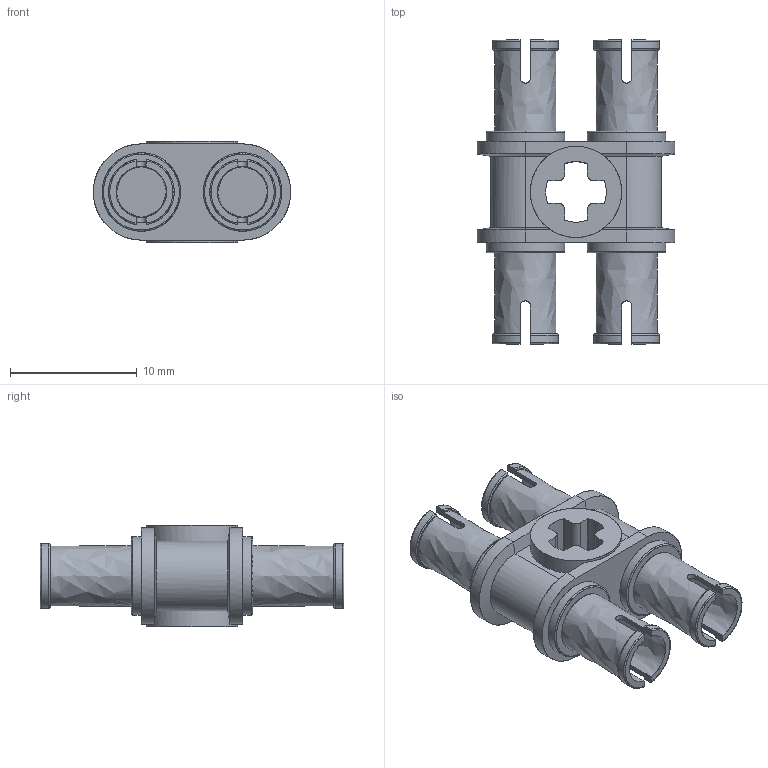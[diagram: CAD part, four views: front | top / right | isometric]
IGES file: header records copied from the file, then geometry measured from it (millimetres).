
Start section: C
Global section: file name: Black_4119589_AVV.iges; native system: By Siemens PLM Incorporated; preprocessor: XPlus GENERIC/IGES 26.1.183; author: Author; organization: Title; date: 20250721.234457; units: millimetre
Bounding box: 15.59 x 24 x 8 mm (x, y, z)
Surface area: 1587.2 mm2 (no closed solid volume)
Topology: 0 solids, 0 shells, 145 faces, 1118 edges, 1118 vertices
Faces by surface type: bspline 145
